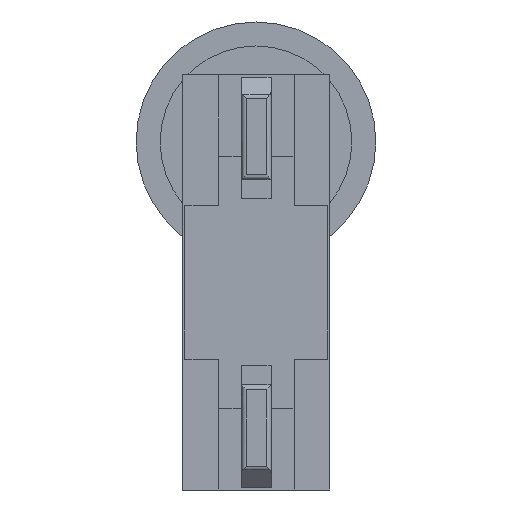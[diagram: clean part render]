
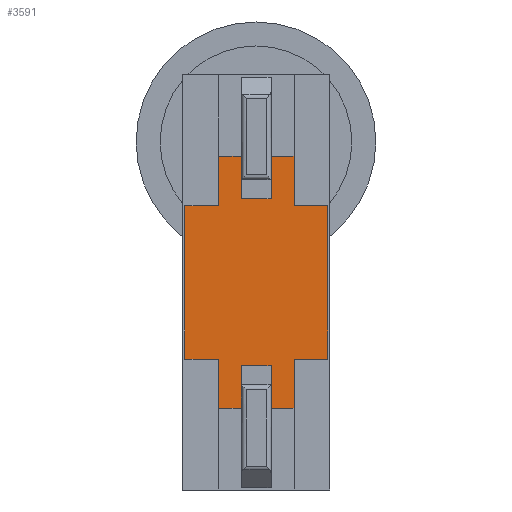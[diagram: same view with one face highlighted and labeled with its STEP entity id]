
A CAD part, front view. The second image highlights one B-rep face of the part: STEP entity #3591.
In plain terms, the highlighted planar face has unit normal (0, -1, 0).
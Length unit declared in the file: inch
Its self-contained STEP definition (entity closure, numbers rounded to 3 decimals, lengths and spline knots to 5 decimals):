
#299=FACE_OUTER_BOUND('',#500,.T.);
#500=EDGE_LOOP('',(#2376,#2377,#2378,#2379,#2380,#2381,#2382,#2383,#2384,
#2385,#2386,#2387,#2388,#2389,#2390,#2391,#2392,#2393,#2394,#2395));
#712=LINE('',#4760,#1083);
#716=LINE('',#4768,#1087);
#722=LINE('',#4779,#1093);
#732=LINE('',#4799,#1103);
#737=LINE('',#4809,#1108);
#738=LINE('',#4812,#1109);
#739=LINE('',#4814,#1110);
#740=LINE('',#4816,#1111);
#741=LINE('',#4818,#1112);
#742=LINE('',#4820,#1113);
#743=LINE('',#4822,#1114);
#744=LINE('',#4824,#1115);
#745=LINE('',#4826,#1116);
#746=LINE('',#4828,#1117);
#747=LINE('',#4830,#1118);
#748=LINE('',#4832,#1119);
#749=LINE('',#4834,#1120);
#750=LINE('',#4836,#1121);
#751=LINE('',#4838,#1122);
#752=LINE('',#4839,#1123);
#1083=VECTOR('',#4049,0.3937);
#1087=VECTOR('',#4055,0.3937);
#1093=VECTOR('',#4063,0.3937);
#1103=VECTOR('',#4077,0.3937);
#1108=VECTOR('',#4084,0.3937);
#1109=VECTOR('',#4087,0.3937);
#1110=VECTOR('',#4088,0.3937);
#1111=VECTOR('',#4089,0.3937);
#1112=VECTOR('',#4090,0.3937);
#1113=VECTOR('',#4091,0.3937);
#1114=VECTOR('',#4092,0.3937);
#1115=VECTOR('',#4093,0.3937);
#1116=VECTOR('',#4094,0.3937);
#1117=VECTOR('',#4095,0.3937);
#1118=VECTOR('',#4096,0.3937);
#1119=VECTOR('',#4097,0.3937);
#1120=VECTOR('',#4098,0.3937);
#1121=VECTOR('',#4099,0.3937);
#1122=VECTOR('',#4100,0.3937);
#1123=VECTOR('',#4101,0.3937);
#1453=VERTEX_POINT('',#4756);
#1455=VERTEX_POINT('',#4759);
#1458=VERTEX_POINT('',#4767);
#1462=VERTEX_POINT('',#4777);
#1470=VERTEX_POINT('',#4797);
#1474=VERTEX_POINT('',#4807);
#1475=VERTEX_POINT('',#4811);
#1476=VERTEX_POINT('',#4813);
#1477=VERTEX_POINT('',#4815);
#1478=VERTEX_POINT('',#4817);
#1479=VERTEX_POINT('',#4819);
#1480=VERTEX_POINT('',#4821);
#1481=VERTEX_POINT('',#4823);
#1482=VERTEX_POINT('',#4825);
#1483=VERTEX_POINT('',#4827);
#1484=VERTEX_POINT('',#4829);
#1485=VERTEX_POINT('',#4831);
#1486=VERTEX_POINT('',#4833);
#1487=VERTEX_POINT('',#4835);
#1488=VERTEX_POINT('',#4837);
#1809=EDGE_CURVE('',#1455,#1453,#712,.T.);
#1813=EDGE_CURVE('',#1458,#1455,#716,.T.);
#1819=EDGE_CURVE('',#1462,#1453,#722,.T.);
#1829=EDGE_CURVE('',#1462,#1470,#732,.T.);
#1834=EDGE_CURVE('',#1470,#1474,#737,.T.);
#1835=EDGE_CURVE('',#1474,#1475,#738,.T.);
#1836=EDGE_CURVE('',#1475,#1476,#739,.T.);
#1837=EDGE_CURVE('',#1476,#1477,#740,.T.);
#1838=EDGE_CURVE('',#1477,#1478,#741,.T.);
#1839=EDGE_CURVE('',#1478,#1479,#742,.T.);
#1840=EDGE_CURVE('',#1479,#1480,#743,.T.);
#1841=EDGE_CURVE('',#1480,#1481,#744,.T.);
#1842=EDGE_CURVE('',#1481,#1482,#745,.T.);
#1843=EDGE_CURVE('',#1482,#1483,#746,.T.);
#1844=EDGE_CURVE('',#1483,#1484,#747,.T.);
#1845=EDGE_CURVE('',#1484,#1485,#748,.T.);
#1846=EDGE_CURVE('',#1485,#1486,#749,.T.);
#1847=EDGE_CURVE('',#1486,#1487,#750,.T.);
#1848=EDGE_CURVE('',#1487,#1488,#751,.T.);
#1849=EDGE_CURVE('',#1488,#1458,#752,.T.);
#2376=ORIENTED_EDGE('',*,*,#1809,.T.);
#2377=ORIENTED_EDGE('',*,*,#1819,.F.);
#2378=ORIENTED_EDGE('',*,*,#1829,.T.);
#2379=ORIENTED_EDGE('',*,*,#1834,.T.);
#2380=ORIENTED_EDGE('',*,*,#1835,.T.);
#2381=ORIENTED_EDGE('',*,*,#1836,.T.);
#2382=ORIENTED_EDGE('',*,*,#1837,.T.);
#2383=ORIENTED_EDGE('',*,*,#1838,.T.);
#2384=ORIENTED_EDGE('',*,*,#1839,.T.);
#2385=ORIENTED_EDGE('',*,*,#1840,.T.);
#2386=ORIENTED_EDGE('',*,*,#1841,.T.);
#2387=ORIENTED_EDGE('',*,*,#1842,.T.);
#2388=ORIENTED_EDGE('',*,*,#1843,.T.);
#2389=ORIENTED_EDGE('',*,*,#1844,.T.);
#2390=ORIENTED_EDGE('',*,*,#1845,.T.);
#2391=ORIENTED_EDGE('',*,*,#1846,.T.);
#2392=ORIENTED_EDGE('',*,*,#1847,.T.);
#2393=ORIENTED_EDGE('',*,*,#1848,.T.);
#2394=ORIENTED_EDGE('',*,*,#1849,.T.);
#2395=ORIENTED_EDGE('',*,*,#1813,.T.);
#3422=PLANE('',#3880);
#3591=ADVANCED_FACE('',(#299),#3422,.T.);
#3880=AXIS2_PLACEMENT_3D('',#4810,#4085,#4086);
#4049=DIRECTION('',(-1.,0.,0.));
#4055=DIRECTION('',(0.,0.,-1.));
#4063=DIRECTION('',(0.,0.,1.));
#4077=DIRECTION('',(1.,0.,0.));
#4084=DIRECTION('',(0.,0.,-1.));
#4085=DIRECTION('center_axis',(0.,-1.,0.));
#4086=DIRECTION('ref_axis',(1.,0.,0.));
#4087=DIRECTION('',(1.,0.,0.));
#4088=DIRECTION('',(0.,0.,1.));
#4089=DIRECTION('',(1.,0.,0.));
#4090=DIRECTION('',(0.,0.,-1.));
#4091=DIRECTION('',(1.,0.,0.));
#4092=DIRECTION('',(0.,0.,1.));
#4093=DIRECTION('',(1.,0.,0.));
#4094=DIRECTION('',(0.,0.,1.));
#4095=DIRECTION('',(-1.,0.,0.));
#4096=DIRECTION('',(0.,0.,1.));
#4097=DIRECTION('',(-1.,0.,0.));
#4098=DIRECTION('',(0.,0.,-1.));
#4099=DIRECTION('',(-1.,0.,0.));
#4100=DIRECTION('',(0.,0.,1.));
#4101=DIRECTION('',(-1.,0.,0.));
#4756=CARTESIAN_POINT('',(-0.07441,-0.287,0.08));
#4759=CARTESIAN_POINT('',(-0.03941,-0.287,0.08));
#4760=CARTESIAN_POINT('',(-0.07441,-0.287,0.08));
#4767=CARTESIAN_POINT('',(-0.03941,-0.287,0.13154));
#4768=CARTESIAN_POINT('',(-0.03941,-0.287,-0.04407));
#4777=CARTESIAN_POINT('',(-0.07441,-0.287,-0.08));
#4779=CARTESIAN_POINT('',(-0.07441,-0.287,-0.21654));
#4797=CARTESIAN_POINT('',(-0.03941,-0.287,-0.08));
#4799=CARTESIAN_POINT('',(-0.07441,-0.287,-0.08));
#4807=CARTESIAN_POINT('',(-0.03941,-0.287,-0.13154));
#4809=CARTESIAN_POINT('',(-0.03941,-0.287,-0.17246));
#4810=CARTESIAN_POINT('Origin',(-0.07441,-0.287,-0.21654));
#4811=CARTESIAN_POINT('',(-0.0155,-0.287,-0.13154));
#4812=CARTESIAN_POINT('',(0.00118,-0.287,-0.13154));
#4813=CARTESIAN_POINT('',(-0.0155,-0.287,-0.087));
#4814=CARTESIAN_POINT('',(-0.0155,-0.287,-0.18327));
#4815=CARTESIAN_POINT('',(0.0155,-0.287,-0.087));
#4816=CARTESIAN_POINT('',(-0.0372,-0.287,-0.087));
#4817=CARTESIAN_POINT('',(0.0155,-0.287,-0.13154));
#4818=CARTESIAN_POINT('',(0.0155,-0.287,-0.18327));
#4819=CARTESIAN_POINT('',(0.03941,-0.287,-0.13154));
#4820=CARTESIAN_POINT('',(0.00118,-0.287,-0.13154));
#4821=CARTESIAN_POINT('',(0.03941,-0.287,-0.08));
#4822=CARTESIAN_POINT('',(0.03941,-0.287,-0.17246));
#4823=CARTESIAN_POINT('',(0.07441,-0.287,-0.08));
#4824=CARTESIAN_POINT('',(0.,-0.287,-0.08));
#4825=CARTESIAN_POINT('',(0.07441,-0.287,0.08));
#4826=CARTESIAN_POINT('',(0.07441,-0.287,-0.21654));
#4827=CARTESIAN_POINT('',(0.03941,-0.287,0.08));
#4828=CARTESIAN_POINT('',(0.,-0.287,0.08));
#4829=CARTESIAN_POINT('',(0.03941,-0.287,0.13154));
#4830=CARTESIAN_POINT('',(0.03941,-0.287,-0.04407));
#4831=CARTESIAN_POINT('',(0.0155,-0.287,0.13154));
#4832=CARTESIAN_POINT('',(0.00118,-0.287,0.13154));
#4833=CARTESIAN_POINT('',(0.0155,-0.287,0.087));
#4834=CARTESIAN_POINT('',(0.0155,-0.287,-0.03326));
#4835=CARTESIAN_POINT('',(-0.0155,-0.287,0.087));
#4836=CARTESIAN_POINT('',(-0.0372,-0.287,0.087));
#4837=CARTESIAN_POINT('',(-0.0155,-0.287,0.13154));
#4838=CARTESIAN_POINT('',(-0.0155,-0.287,-0.03326));
#4839=CARTESIAN_POINT('',(0.00118,-0.287,0.13154));
